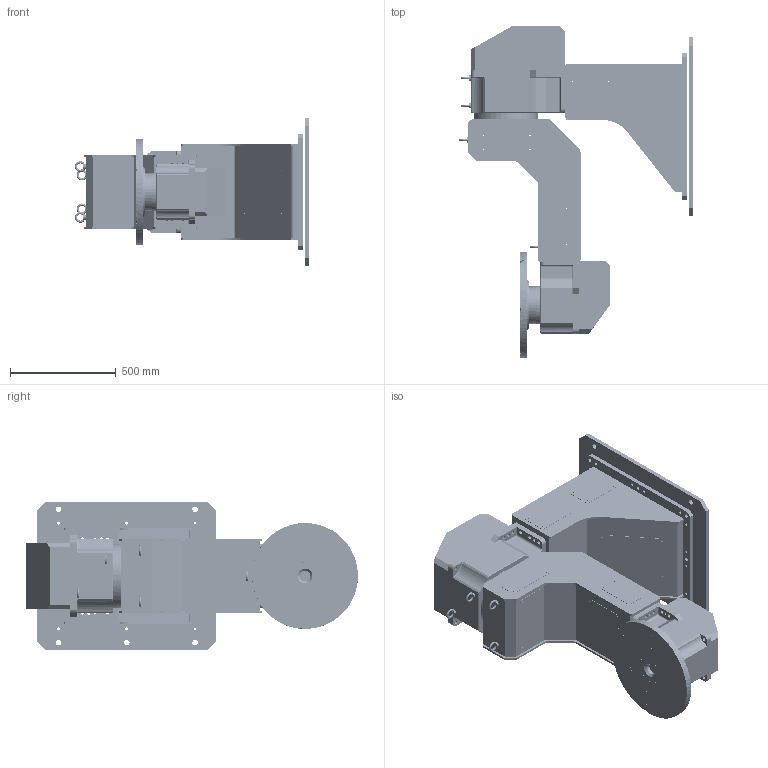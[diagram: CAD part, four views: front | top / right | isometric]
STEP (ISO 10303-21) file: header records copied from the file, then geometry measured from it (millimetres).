
FILE_DESCRIPTION(('CATIA V5 STEP Exchange','CAx-IF Rec.Pracs.--- Model Styling and Organization---1.5--- 2016-08-15','CAx-IF Rec.Pracs.---Supplemental Geometry---1.0---2011-11-01','CAx-IF Rec.Pracs.--- Composite Materials ---1.1---2010-07-15'),'2;1');
FILE_NAME('E:\盛允铸造变位机数据\2024-5-16最新变位机方案\三维数据\2024-5-16-STP\SPLC-1000.stp','2024-05-16T06:14:57+00:00',('none'),('none'),'CATIA Version 5-6 Release 2020','CATIA V5 STEP AP214 v1','none');
FILE_SCHEMA(('AUTOMOTIVE_DESIGN { 1 0 10303 214 1 1 1 1 }'));
Products named in the file (48): SPLC-1000; SY20220609-L1-03; SY20220609-L1-03-01; rv-100c-171.5单元; SY20220609-L1-03-01-01; SY20220609-L1-03-01-02; -05; 010.20.224.10; 01x.20.224外光孔; 01x.20.224内光孔; SY20230613-SY-00-01; 2022-12-16-.1; 2023-6-15-3; SY20220609-L1-01; SY20220609-L1-01-01; SY20220609-L1-01-02; SY20220609-L1-01-03; SY20220609-L1-01-04; SY20220609-L1-01-05; SY20220609-L1-01-06; SY20220609-L1-01-07; SY20220609-L1-01-08; SY20220609-L1-01-09; SY20220609-L1-01-10; SY20220609-L1-01-11; 40E-80E-27C-DT; SY20220609-L1-03-02; 1-1; 40E-80E-27C-01.; 9897; SY20230613-SY-00-02; SY20220609-L1-03-01-06; BX27C-i104.43; Part26; Part146546; 50C-27C-FL-10; SY20220604-ZZ-06; SY20220609-L1-02; SY20220609-L1-02-01; SY20220609-L1-02-02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
Assembly tree (60 placements, depth 5):
  SPLC-1000
    SY20220609-L1-03
      SY20220609-L1-03-01
      rv-100c-171.5单元
      SY20220609-L1-03-01-01
      SY20220609-L1-03-01-02
      -05  x2
      010.20.224.10
        01x.20.224外光孔
        01x.20.224内光孔
      SY20230613-SY-00-01
      2022-12-16-.1
      2023-6-15-3  x2
    SY20220609-L1-01
      SY20220609-L1-01-01
      SY20220609-L1-01-02
      SY20220609-L1-01-03
      SY20220609-L1-01-04
      SY20220609-L1-01-05
      SY20220609-L1-01-06
      SY20220609-L1-01-07  x2
      SY20220609-L1-01-08  x2
      SY20220609-L1-01-09
      SY20220609-L1-01-10
      SY20220609-L1-01-11
      40E-80E-27C-DT
        SY20220609-L1-03-02
        1-1
        40E-80E-27C-01.
        9897
          SY20230613-SY-00-02
          2022-12-16-.1
        SY20220609-L1-03-01-06
        BX27C-i104.43
        Part26
        Part146546
      -05  x3
      50C-27C-FL-10
      Part26
      SY20220604-ZZ-06
    SY20220609-L1-02
      SY20220609-L1-02-01
      SY20220609-L1-02-02  x2
      SY20220609-L1-02-03
      SY20220609-L1-00-15
      SY20220609-L1-02-05
      SY20220609-L1-02-06
      SY20220609-L1-02-07  x4
      SY20220609-L1-02-08
      SY20220609-L1-02-09
      SY20220609-L1-02-10
Bounding box: 1106 x 1568 x 700 mm (x, y, z)
Volume: 81164660 mm3; surface area: 12309065 mm2
Topology: 158 solids, 163 shells, 6458 faces, 17000 edges, 10503 vertices
Faces by surface type: cylinder 3191, plane 1598, torus 846, cone 431, bspline 370, extrusion 18, sphere 4
Entity records: 174731 total; most frequent: CARTESIAN_POINT 59063, ORIENTED_EDGE 26342, DIRECTION 15740, EDGE_CURVE 13234, VERTEX_POINT 8541, AXIS2_PLACEMENT_3D 7431, EDGE_LOOP 6571, VECTOR 5599
